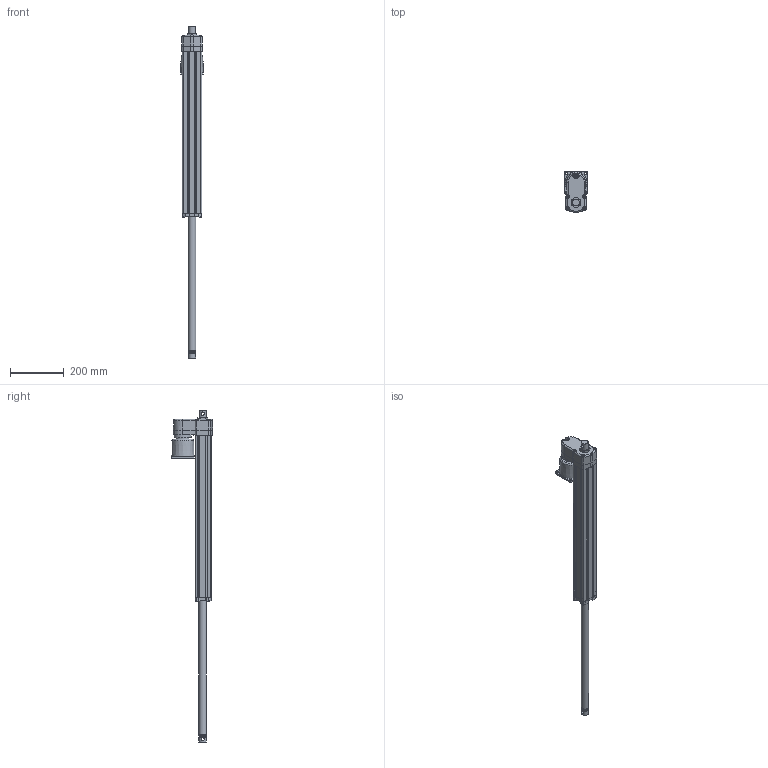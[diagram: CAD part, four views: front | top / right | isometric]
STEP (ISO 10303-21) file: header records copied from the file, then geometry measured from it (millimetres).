
FILE_DESCRIPTION (( 'STEP AP214' ), '1' );
FILE_NAME ('FA14-05A65M50M0_tollo.step', '2020-04-15T18:22:27', ( '' ), ( '' ), 'SwSTEP 2.0', 'SolidWorks 2010', '' );
FILE_SCHEMA (( 'AUTOMOTIVE_DESIGN' ));
Length unit declared in the file: millimetre
Products named in the file (9): Electrak-FA14-House-Acme-Tollo; Electrak-FA14-Rear-Tollo; Electrak-FA14-Motor-Tollo; Electrak-FA14-Tube-Acme-Tollo; Electrak-FA14-Plate-Tollo; Screw-MRT-TT-M5; Screw-M6S-M5; Electrak-FA14-Rod-Acme-Tollo; FA14-05A65M50M0_tollo
Assembly tree (15 placements, depth 3):
  FA14-05A65M50M0_tollo
    Electrak-FA14-House-Acme-Tollo
      Screw-M6S-M5  x8
      Electrak-FA14-Plate-Tollo
      Screw-MRT-TT-M5
      Electrak-FA14-Motor-Tollo
      Electrak-FA14-Rear-Tollo
      Electrak-FA14-Tube-Acme-Tollo
    Electrak-FA14-Rod-Acme-Tollo
Bounding box: 85 x 154.18 x 1241.1 mm (x, y, z)
Volume: 1738478.7 mm3; surface area: 561669.2 mm2
Topology: 14 solids, 14 shells, 509 faces, 1279 edges, 826 vertices
Faces by surface type: plane 234, cylinder 198, cone 57, torus 18, bspline 2
Full cylindrical faces by diameter (mm): 4.126 x8, 4.8 x6, 5 x8, 5.6 x4, 6 x1, 7 x4, 7.878 x8, 9.5 x1, 11.741 x1, 12.2 x2, 25.4 x1, 28.5 x4, 34.5 x1, 47.625 x1, 50 x1, 65 x1, 80 x1
Entity records: 11671 total; most frequent: CARTESIAN_POINT 2704, DIRECTION 1857, ORIENTED_EDGE 1700, EDGE_CURVE 850, AXIS2_PLACEMENT_3D 686, VERTEX_POINT 577, VECTOR 485, LINE 485
